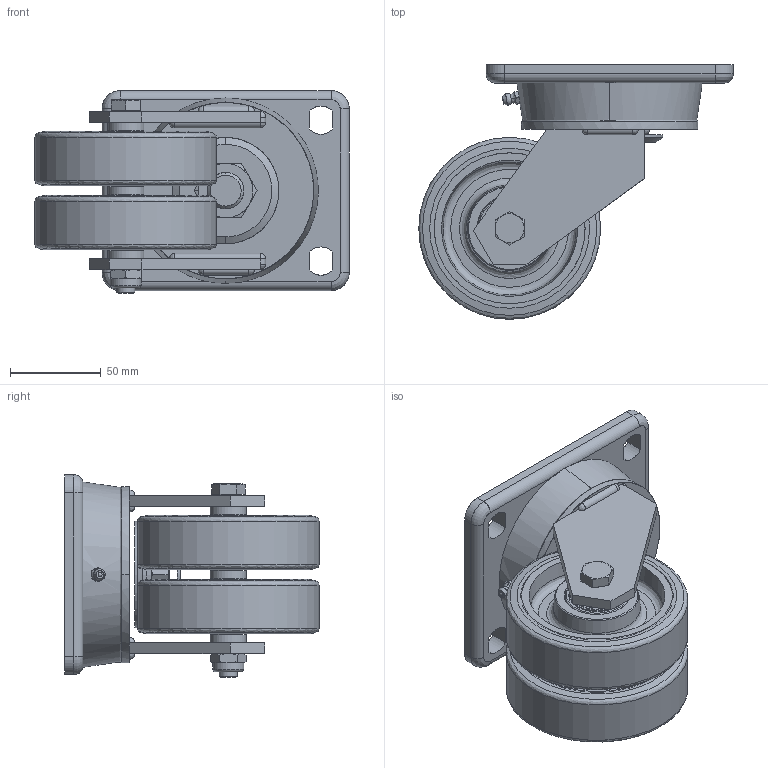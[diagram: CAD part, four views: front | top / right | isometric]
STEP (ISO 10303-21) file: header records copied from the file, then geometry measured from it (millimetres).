
FILE_DESCRIPTION(('STEP AP203'),'2;1');
FILE_NAME('7470_CL.stp','2010-05-03T11:42:43',(''),(''),'2009.1.108','THINKDESIGN','');
FILE_SCHEMA(('CONFIG_CONTROL_DESIGN'));
Length unit declared in the file: millimetre
Bounding box: 173 x 140 x 111.5 mm (x, y, z)
Volume: 329617.3 mm3; surface area: 213944.1 mm2
Topology: 24 solids, 24 shells, 482 faces, 1571 edges, 1321 vertices
Faces by surface type: bspline 230, plane 131, cylinder 121
Full cylindrical faces by diameter (mm): 8.647 x2, 10 x1, 10.8 x2, 11 x1, 14.63 x1, 15 x5, 16 x5, 17 x1, 19.4 x12, 20 x5, 21.7 x8, 29.2 x8, 30.4 x12, 35 x8, 100 x2
Entity records: 25710 total; most frequent: CARTESIAN_POINT 14197, DIRECTION 2433, ORIENTED_EDGE 1718, AXIS2_PLACEMENT_3D 975, EDGE_CURVE 859, CIRCLE 723, COMPOSITE_CURVE_SEGMENT 684, VERTEX_POINT 611
